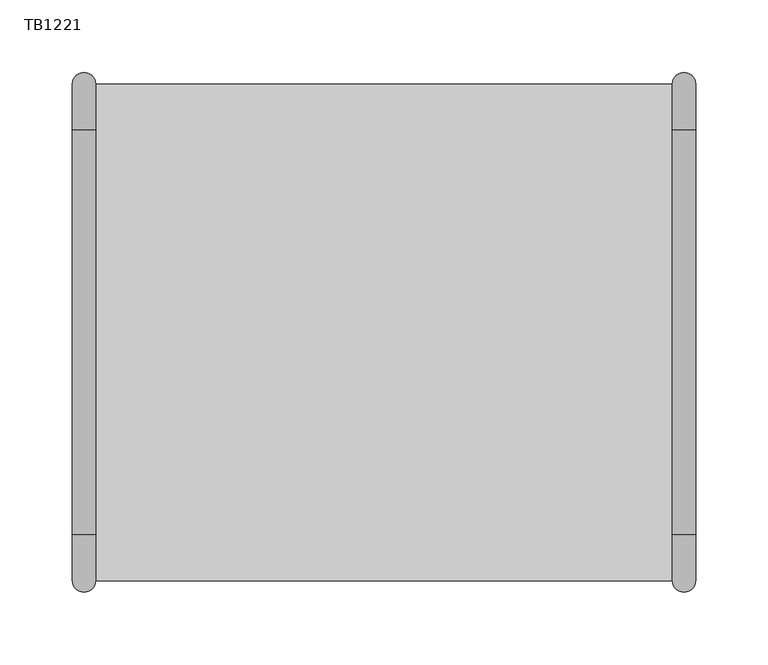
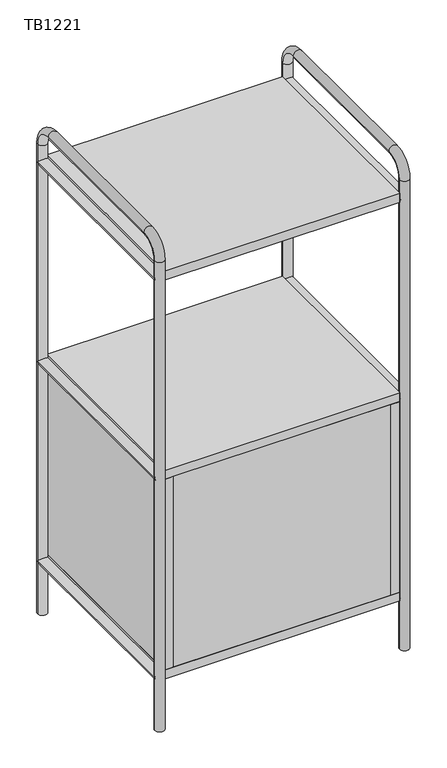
"""IFC4 building model written with IfcOpenShell, lengths in millimetres: furniture geometry, Tubbe Bookcase_2x1 : TB1221."""

from ifc_helpers import new_model, si_unit, point, frame, frame_2d, origin, place, context, project, spatial, polyline, circle_curve, ellipse_curve, trimmed, segment, composite_curve, outline, extrude, source, transform, mapped, element, save
from ifc_brep_helpers import plane_surface, cylinder_surface, revolved_surface, advanced_brep


def tb1221_6da47cf3(model_context):
    return source(origin(), model_context, "Body", "SolidModel", [
        extrude(outline(polyline([(183.0, -171.5), (-183.0, -171.5), (-183.0, -155.5), (183.0, -155.5), (183.0, -171.5)])), frame((0.0, 0.0, 102.0), z_axis=(0.0, 0.0, 1.0), x_axis=(1.0, 0.0, 0.0)), (0.0, 0.0, 1.0), 340.0),
        extrude(outline(polyline([(183.0, 155.5), (-183.0, 155.5), (-183.0, 171.5), (183.0, 171.5), (183.0, 155.5)])), frame((0.0, 0.0, 102.0), z_axis=(0.0, 0.0, 1.0), x_axis=(1.0, 0.0, 0.0)), (0.0, 0.0, 1.0), 340.0),
        extrude(outline(polyline([(199.0, 171.5), (199.0, -171.5), (183.0, -171.5), (183.0, 171.5), (199.0, 171.5)])), frame((0.0, 0.0, 102.0), z_axis=(0.0, 0.0, 1.0), x_axis=(1.0, 0.0, 0.0)), (0.0, 0.0, 1.0), 340.0),
        extrude(outline(polyline([(-183.0, 171.5), (-183.0, -171.5), (-199.0, -171.5), (-199.0, 171.5), (-183.0, 171.5)])), frame((0.0, 0.0, 102.0), z_axis=(0.0, 0.0, 1.0), x_axis=(1.0, 0.0, 0.0)), (0.0, 0.0, 1.0), 340.0),
        extrude(outline(polyline([(199.0, 171.5), (199.0, -171.5), (-199.0, -171.5), (-199.0, 171.5), (199.0, 171.5)])), frame((0.0, 0.0, 798.0), z_axis=(0.0, 0.0, 1.0), x_axis=(1.0, 0.0, 0.0)), (0.0, 0.0, 1.0), 16.0),
        extrude(outline(polyline([(199.0, 171.5), (199.0, -171.5), (-199.0, -171.5), (-199.0, 171.5), (199.0, 171.5)])), frame((0.0, 0.0, 442.0), z_axis=(0.0, 0.0, 1.0), x_axis=(1.0, 0.0, 0.0)), (0.0, 0.0, 1.0), 16.0),
        extrude(outline(polyline([(199.0, 171.5), (199.0, -171.5), (-199.0, -171.5), (-199.0, 171.5), (199.0, 171.5)])), frame((0.0, 0.0, 86.0), z_axis=(0.0, 0.0, 1.0), x_axis=(1.0, 0.0, 0.0)), (0.0, 0.0, 1.0), 16.0),
        extrude(outline(composite_curve([segment(trimmed(circle_curve(frame_2d((806.0, 207.0)), 8.0), [point((806.0, 199.0))], [point((806.0, 215.0))], False, "CARTESIAN"), True, "CONTINUOUS"), segment(trimmed(circle_curve(frame_2d((806.0, 207.0)), 8.0), [point((806.0, 215.0))], [point((806.0, 199.0))], False, "CARTESIAN"), True, "CONTINUOUS")], self_intersect=False)), frame((0.0, -171.5, 0.0), z_axis=(0.0, 1.0, 0.0), x_axis=(0.0, 0.0, 1.0)), (0.0, 0.0, 1.0), 343.0),
        extrude(outline(composite_curve([segment(trimmed(circle_curve(frame_2d((450.0, 207.0)), 8.0), [point((450.0, 199.0))], [point((450.0, 215.0))], False, "CARTESIAN"), True, "CONTINUOUS"), segment(trimmed(circle_curve(frame_2d((450.0, 207.0)), 8.0), [point((450.0, 215.0))], [point((450.0, 199.0))], False, "CARTESIAN"), True, "CONTINUOUS")], self_intersect=False)), frame((0.0, -171.5, 0.0), z_axis=(0.0, 1.0, 0.0), x_axis=(0.0, 0.0, 1.0)), (0.0, 0.0, 1.0), 343.0),
        extrude(outline(composite_curve([segment(trimmed(circle_curve(frame_2d((94.0, 207.0)), 8.0), [point((94.0, 199.0))], [point((94.0, 215.0))], False, "CARTESIAN"), True, "CONTINUOUS"), segment(trimmed(circle_curve(frame_2d((94.0, 207.0)), 8.0), [point((94.0, 215.0))], [point((94.0, 199.0))], False, "CARTESIAN"), True, "CONTINUOUS")], self_intersect=False)), frame((0.0, -171.5, 0.0), z_axis=(0.0, 1.0, 0.0), x_axis=(0.0, 0.0, 1.0)), (0.0, 0.0, 1.0), 343.0),
        advanced_brep(
        [(199.0, 171.5, 0.0), (215.0, 171.5, 0.0), (199.0, 171.5, 838.0), (215.0, 171.5, 838.0), (215.0, 139.5, 870.0), (199.0, 139.5, 870.0), (199.0, -139.5, 870.0), (215.0, -139.5, 870.0), (215.0, -171.5, 838.0), (199.0, -171.5, 838.0), (199.0, -171.5, 0.0), (215.0, -171.5, 0.0)],
        [
            (0, 1, circle_curve(frame((207.0, 171.5, 0.0), z_axis=(0.0, 0.0, -1.0), x_axis=(1.0, 0.0, 0.0)), 8.0)),
            (1, 0, circle_curve(frame((207.0, 171.5, 0.0), z_axis=(0.0, 0.0, -1.0), x_axis=(1.0, 0.0, 0.0)), 8.0)),
            (0, 2),
            (2, 3, circle_curve(frame((207.0, 171.5, 838.0), z_axis=(0.0, 0.0, -1.0), x_axis=(1.0, 0.0, 0.0)), 8.0)),
            (3, 1),
            (3, 2, circle_curve(frame((207.0, 171.5, 838.0), z_axis=(0.0, 0.0, -1.0), x_axis=(1.0, 0.0, 0.0)), 8.0)),
            (4, 5, circle_curve(frame((207.0, 139.5, 870.0), z_axis=(0.0, -1.0, 0.0), x_axis=(1.0, 0.0, 0.0)), 8.0)),
            (5, 6),
            (6, 7, circle_curve(frame((207.0, -139.5, 870.0), z_axis=(0.0, 1.0, 0.0), x_axis=(1.0, 0.0, 0.0)), 8.0)),
            (7, 4),
            (5, 4, circle_curve(frame((207.0, 139.5, 870.0), z_axis=(0.0, -1.0, 0.0), x_axis=(1.0, 0.0, 0.0)), 8.0)),
            (7, 6, circle_curve(frame((207.0, -139.5, 870.0), z_axis=(0.0, 1.0, 0.0), x_axis=(1.0, 0.0, 0.0)), 8.0)),
            (8, 7, circle_curve(frame((215.0, -139.5, 838.0), z_axis=(-1.0, 0.0, 0.0), x_axis=(0.0, 0.0, 1.0)), 32.0)),
            (6, 9, circle_curve(frame((199.0, -139.5, 838.0), z_axis=(1.0, 0.0, 0.0), x_axis=(0.0, 0.0, 1.0)), 32.0)),
            (9, 8, circle_curve(frame((207.0, -171.5, 838.0), z_axis=(0.0, 0.0, 1.0), x_axis=(1.0, 0.0, 0.0)), 8.0)),
            (8, 9, circle_curve(frame((207.0, -171.5, 838.0), z_axis=(0.0, 0.0, 1.0), x_axis=(1.0, 0.0, 0.0)), 8.0)),
            (10, 11, circle_curve(frame((207.0, -171.5, 0.0), z_axis=(0.0, 0.0, -1.0), x_axis=(1.0, 0.0, 0.0)), 8.0)),
            (11, 10, circle_curve(frame((207.0, -171.5, 0.0), z_axis=(0.0, 0.0, -1.0), x_axis=(1.0, 0.0, 0.0)), 8.0)),
            (9, 10),
            (11, 8),
            (4, 3, circle_curve(frame((215.0, 139.5, 838.0), z_axis=(-1.0, 0.0, 0.0), x_axis=(0.0, 1.0, 0.0)), 32.0)),
            (2, 5, circle_curve(frame((199.0, 139.5, 838.0), z_axis=(1.0, 0.0, 0.0), x_axis=(0.0, 1.0, 0.0)), 32.0)),
        ],
        [
            plane_surface(frame((207.0, 171.5, 0.0), z_axis=(0.0, 0.0, -1.0), x_axis=(1.0, 0.0, 0.0))),
            cylinder_surface(frame((207.0, 171.5, 0.0), z_axis=(0.0, 0.0, -1.0), x_axis=(1.0, 0.0, 0.0)), 8.0),
            cylinder_surface(frame((207.0, 139.5, 870.0), z_axis=(0.0, 1.0, 0.0), x_axis=(1.0, 0.0, 0.0)), 8.0),
            revolved_surface(trimmed(ellipse_curve(frame((207.0, -139.5, 870.0), z_axis=(0.0, 1.0, 0.0), x_axis=(1.0, 0.0, 0.0)), 8.0, 8.0), [point((199.0, -139.5, 870.0))], [point((215.0, -139.5, 870.0))], True, "CARTESIAN"), (207.0, -139.5, 838.0), (1.0, 0.0, 0.0)),
            revolved_surface(trimmed(ellipse_curve(frame((207.0, -139.5, 870.0), z_axis=(0.0, 1.0, 0.0), x_axis=(1.0, 0.0, 0.0)), 8.0, 8.0), [point((215.0, -139.5, 870.0))], [point((199.0, -139.5, 870.0))], True, "CARTESIAN"), (207.0, -139.5, 838.0), (1.0, 0.0, 0.0)),
            plane_surface(frame((207.0, -171.5, 0.0), z_axis=(0.0, 0.0, -1.0), x_axis=(1.0, 0.0, 0.0))),
            cylinder_surface(frame((207.0, -171.5, 838.0), z_axis=(0.0, 0.0, 1.0), x_axis=(1.0, 0.0, 0.0)), 8.0),
            revolved_surface(trimmed(ellipse_curve(frame((207.0, 171.5, 838.0), z_axis=(0.0, 0.0, -1.0), x_axis=(1.0, 0.0, 0.0)), 8.0, 8.0), [point((199.0, 171.5, 838.0))], [point((215.0, 171.5, 838.0))], True, "CARTESIAN"), (207.0, 139.5, 838.0), (1.0, 0.0, 0.0)),
            revolved_surface(trimmed(ellipse_curve(frame((207.0, 171.5, 838.0), z_axis=(0.0, 0.0, -1.0), x_axis=(1.0, 0.0, 0.0)), 8.0, 8.0), [point((215.0, 171.5, 838.0))], [point((199.0, 171.5, 838.0))], True, "CARTESIAN"), (207.0, 139.5, 838.0), (1.0, 0.0, 0.0)),
        ],
        [
            (0, [[1, 2]]),
            (1, [[-1, 3, 4, 5]]),
            (1, [[-2, -5, 6, -3]]),
            (2, [[7, 8, 9, 10]]),
            (2, [[11, -10, 12, -8]]),
            (3, [[13, -9, 14, 15]]),
            (4, [[-14, -12, -13, 16]]),
            (5, [[17, 18]]),
            (6, [[-15, 19, -18, 20]]),
            (6, [[-16, -20, -17, -19]]),
            (7, [[21, -4, 22, -7]]),
            (8, [[-22, -6, -21, -11]]),
        ],
    ),
        extrude(outline(composite_curve([segment(trimmed(circle_curve(frame_2d((806.0, -207.0)), 8.0), [point((806.0, -215.0))], [point((806.0, -199.0))], False, "CARTESIAN"), True, "CONTINUOUS"), segment(trimmed(circle_curve(frame_2d((806.0, -207.0)), 8.0), [point((806.0, -199.0))], [point((806.0, -215.0))], False, "CARTESIAN"), True, "CONTINUOUS")], self_intersect=False)), frame((0.0, -171.5, 0.0), z_axis=(0.0, 1.0, 0.0), x_axis=(0.0, 0.0, 1.0)), (0.0, 0.0, 1.0), 343.0),
        extrude(outline(composite_curve([segment(trimmed(circle_curve(frame_2d((450.0, -207.0)), 8.0), [point((450.0, -215.0))], [point((450.0, -199.0))], False, "CARTESIAN"), True, "CONTINUOUS"), segment(trimmed(circle_curve(frame_2d((450.0, -207.0)), 8.0), [point((450.0, -199.0))], [point((450.0, -215.0))], False, "CARTESIAN"), True, "CONTINUOUS")], self_intersect=False)), frame((0.0, -171.5, 0.0), z_axis=(0.0, 1.0, 0.0), x_axis=(0.0, 0.0, 1.0)), (0.0, 0.0, 1.0), 343.0),
        extrude(outline(composite_curve([segment(trimmed(circle_curve(frame_2d((94.0, -207.0)), 8.0), [point((94.0, -215.0))], [point((94.0, -199.0))], False, "CARTESIAN"), True, "CONTINUOUS"), segment(trimmed(circle_curve(frame_2d((94.0, -207.0)), 8.0), [point((94.0, -199.0))], [point((94.0, -215.0))], False, "CARTESIAN"), True, "CONTINUOUS")], self_intersect=False)), frame((0.0, -171.5, 0.0), z_axis=(0.0, 1.0, 0.0), x_axis=(0.0, 0.0, 1.0)), (0.0, 0.0, 1.0), 343.0),
        advanced_brep(
        [(-215.0, 171.5, 0.0), (-199.0, 171.5, 0.0), (-215.0, 171.5, 838.0), (-199.0, 171.5, 838.0), (-199.0, 139.5, 870.0), (-215.0, 139.5, 870.0), (-215.0, -139.5, 870.0), (-199.0, -139.5, 870.0), (-199.0, -171.5, 838.0), (-215.0, -171.5, 838.0), (-215.0, -171.5, 0.0), (-199.0, -171.5, 0.0)],
        [
            (0, 1, circle_curve(frame((-207.0, 171.5, 0.0), z_axis=(0.0, 0.0, -1.0), x_axis=(1.0, 0.0, 0.0)), 8.0)),
            (1, 0, circle_curve(frame((-207.0, 171.5, 0.0), z_axis=(0.0, 0.0, -1.0), x_axis=(1.0, 0.0, 0.0)), 8.0)),
            (0, 2),
            (2, 3, circle_curve(frame((-207.0, 171.5, 838.0), z_axis=(0.0, 0.0, -1.0), x_axis=(1.0, 0.0, 0.0)), 8.0)),
            (3, 1),
            (3, 2, circle_curve(frame((-207.0, 171.5, 838.0), z_axis=(0.0, 0.0, -1.0), x_axis=(1.0, 0.0, 0.0)), 8.0)),
            (4, 5, circle_curve(frame((-207.0, 139.5, 870.0), z_axis=(0.0, -1.0, 0.0), x_axis=(1.0, 0.0, 0.0)), 8.0)),
            (5, 6),
            (6, 7, circle_curve(frame((-207.0, -139.5, 870.0), z_axis=(0.0, 1.0, 0.0), x_axis=(1.0, 0.0, 0.0)), 8.0)),
            (7, 4),
            (5, 4, circle_curve(frame((-207.0, 139.5, 870.0), z_axis=(0.0, -1.0, 0.0), x_axis=(1.0, 0.0, 0.0)), 8.0)),
            (7, 6, circle_curve(frame((-207.0, -139.5, 870.0), z_axis=(0.0, 1.0, 0.0), x_axis=(1.0, 0.0, 0.0)), 8.0)),
            (8, 7, circle_curve(frame((-199.0, -139.5, 838.0), z_axis=(-1.0, 0.0, 0.0), x_axis=(0.0, 0.0, 1.0)), 32.0)),
            (6, 9, circle_curve(frame((-215.0, -139.5, 838.0), z_axis=(1.0, 0.0, 0.0), x_axis=(0.0, 0.0, 1.0)), 32.0)),
            (9, 8, circle_curve(frame((-207.0, -171.5, 838.0), z_axis=(0.0, 0.0, 1.0), x_axis=(1.0, 0.0, 0.0)), 8.0)),
            (8, 9, circle_curve(frame((-207.0, -171.5, 838.0), z_axis=(0.0, 0.0, 1.0), x_axis=(1.0, 0.0, 0.0)), 8.0)),
            (10, 11, circle_curve(frame((-207.0, -171.5, 0.0), z_axis=(0.0, 0.0, -1.0), x_axis=(1.0, 0.0, 0.0)), 8.0)),
            (11, 10, circle_curve(frame((-207.0, -171.5, 0.0), z_axis=(0.0, 0.0, -1.0), x_axis=(1.0, 0.0, 0.0)), 8.0)),
            (9, 10),
            (11, 8),
            (4, 3, circle_curve(frame((-199.0, 139.5, 838.0), z_axis=(-1.0, 0.0, 0.0), x_axis=(0.0, 1.0, 0.0)), 32.0)),
            (2, 5, circle_curve(frame((-215.0, 139.5, 838.0), z_axis=(1.0, 0.0, 0.0), x_axis=(0.0, 1.0, 0.0)), 32.0)),
        ],
        [
            plane_surface(frame((-207.0, 171.5, 0.0), z_axis=(0.0, 0.0, -1.0), x_axis=(1.0, 0.0, 0.0))),
            cylinder_surface(frame((-207.0, 171.5, 0.0), z_axis=(0.0, 0.0, -1.0), x_axis=(1.0, 0.0, 0.0)), 8.0),
            cylinder_surface(frame((-207.0, 139.5, 870.0), z_axis=(0.0, 1.0, 0.0), x_axis=(1.0, 0.0, 0.0)), 8.0),
            revolved_surface(trimmed(ellipse_curve(frame((-207.0, -139.5, 870.0), z_axis=(0.0, 1.0, 0.0), x_axis=(1.0, 0.0, 0.0)), 8.0, 8.0), [point((-215.0, -139.5, 870.0))], [point((-199.0, -139.5, 870.0))], True, "CARTESIAN"), (-207.0, -139.5, 838.0), (1.0, 0.0, 0.0)),
            revolved_surface(trimmed(ellipse_curve(frame((-207.0, -139.5, 870.0), z_axis=(0.0, 1.0, 0.0), x_axis=(1.0, 0.0, 0.0)), 8.0, 8.0), [point((-199.0, -139.5, 870.0))], [point((-215.0, -139.5, 870.0))], True, "CARTESIAN"), (-207.0, -139.5, 838.0), (1.0, 0.0, 0.0)),
            plane_surface(frame((-207.0, -171.5, 0.0), z_axis=(0.0, 0.0, -1.0), x_axis=(1.0, 0.0, 0.0))),
            cylinder_surface(frame((-207.0, -171.5, 838.0), z_axis=(0.0, 0.0, 1.0), x_axis=(1.0, 0.0, 0.0)), 8.0),
            revolved_surface(trimmed(ellipse_curve(frame((-207.0, 171.5, 838.0), z_axis=(0.0, 0.0, -1.0), x_axis=(1.0, 0.0, 0.0)), 8.0, 8.0), [point((-215.0, 171.5, 838.0))], [point((-199.0, 171.5, 838.0))], True, "CARTESIAN"), (-207.0, 139.5, 838.0), (1.0, 0.0, 0.0)),
            revolved_surface(trimmed(ellipse_curve(frame((-207.0, 171.5, 838.0), z_axis=(0.0, 0.0, -1.0), x_axis=(1.0, 0.0, 0.0)), 8.0, 8.0), [point((-199.0, 171.5, 838.0))], [point((-215.0, 171.5, 838.0))], True, "CARTESIAN"), (-207.0, 139.5, 838.0), (1.0, 0.0, 0.0)),
        ],
        [
            (0, [[1, 2]]),
            (1, [[-1, 3, 4, 5]]),
            (1, [[-2, -5, 6, -3]]),
            (2, [[7, 8, 9, 10]]),
            (2, [[11, -10, 12, -8]]),
            (3, [[13, -9, 14, 15]]),
            (4, [[-14, -12, -13, 16]]),
            (5, [[17, 18]]),
            (6, [[-15, 19, -18, 20]]),
            (6, [[-16, -20, -17, -19]]),
            (7, [[21, -4, 22, -7]]),
            (8, [[-22, -6, -21, -11]]),
        ],
    ),
    ])


if __name__ == "__main__":
    model = new_model("IFC4")
    model_context = context("Model", 3, world=origin())
    ifc_project = project(units=[si_unit("LENGTHUNIT", "METRE", prefix="MILLI")], contexts=[model_context])
    site = spatial("IfcSite", under=ifc_project)
    building = spatial("IfcBuilding", under=site)
    placement = place(None, origin())
    tb1221_shape = tb1221_6da47cf3(model_context)
    element("IfcFurniture", 1, ObjectType="Tubbe Bookcase_2x1 : TB1221", at=placement, inside=building, context=model_context, shape_type="MappedRepresentation", body=[
        mapped(tb1221_shape, transform((0.0, 0.0, 0.0), x_axis=(1.0, 0.0, 0.0), y_axis=(0.0, 1.0, 0.0), z_axis=(0.0, 0.0, 1.0))),
    ])
    save(model, "model.ifc")
